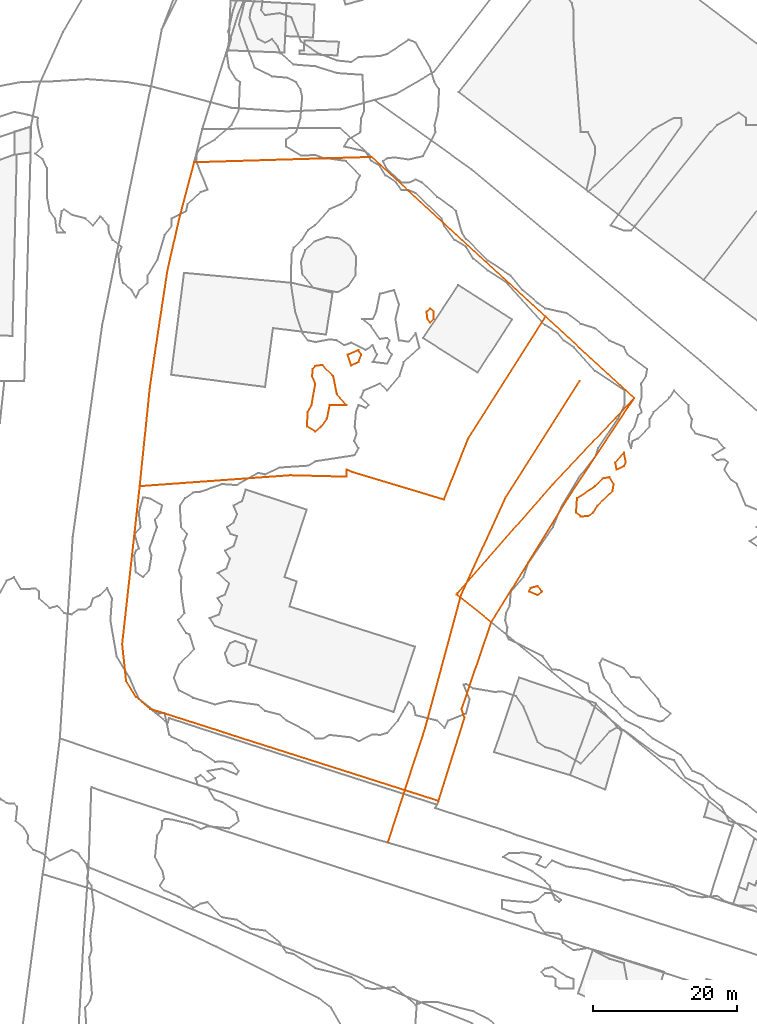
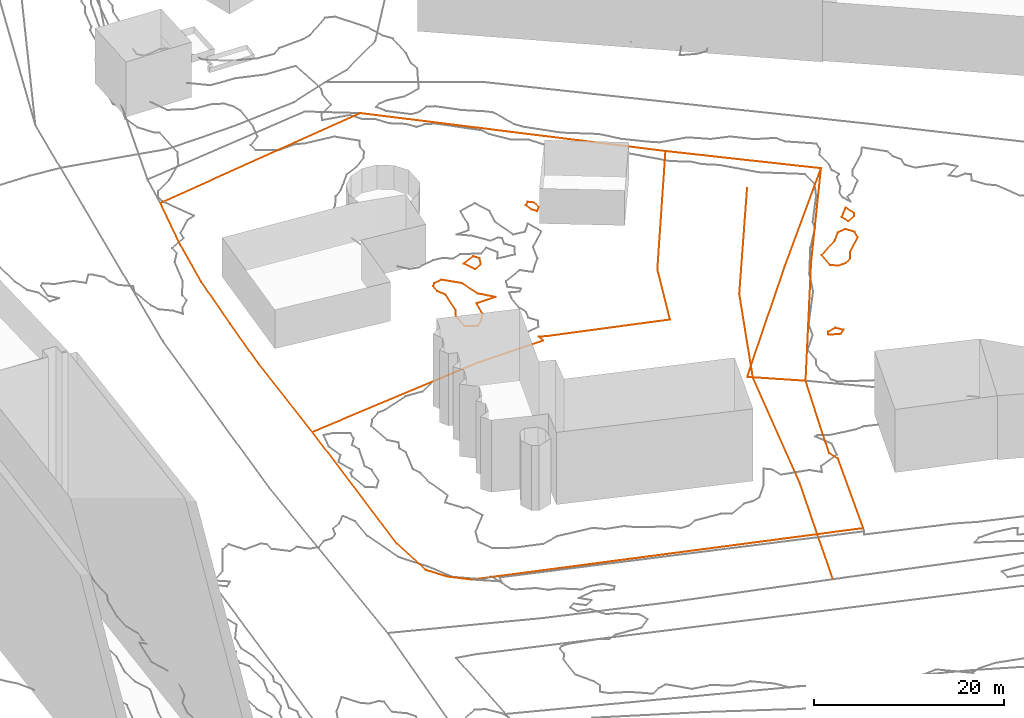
# Not in any storey, part 211 of 419: 10 proxies.
"""IFC2X3 model written with IfcOpenShell, lengths in metres."""

from ifc_helpers import new_model, entity, si_unit, frame, origin_with_axes, place, context, subcontext, project, element, save


model = new_model("IFC2X3")

# Units and contexts
model_context = context("Model", 3, precision=1e-05, world=origin_with_axes())
body_context = subcontext(model_context, "Body", "Model", "MODEL_VIEW")
ifc_project = project(units=[si_unit("AREAUNIT", "SQUARE_METRE"), si_unit("LENGTHUNIT", "METRE")], contexts=[model_context])

# Proxies
proxy_1_placement = place(None, frame((739.1920204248, 194.8976909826, 76.7), z_axis=(0.0, 0.0, 1.0), x_axis=(1.0, 0.0, 0.0)))
element("IfcBuildingElementProxy", 1, at=proxy_1_placement, Name="Route 255", ObjectType="NOTDEFINED", context=body_context, shape_type="GeometricCurveSet", body=[
    entity("IfcGeometricCurveSet", [entity("IfcPolyline", [entity("IfcCartesianPoint", [0.0, 0.0, 0.0]), entity("IfcCartesianPoint", [5.2000000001, 16.0, 0.9]), entity("IfcCartesianPoint", [10.2000000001, 34.5, 1.4]), entity("IfcCartesianPoint", [16.4, 48.0999999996, 1.8]), entity("IfcCartesianPoint", [26.7000000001, 64.2999999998, 1.9])])]),
])
proxy_2_placement = place(None, frame((748.7820204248, 229.4776909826, 78.3629999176), z_axis=(0.0, 0.0, 1.0), x_axis=(1.0, 0.0, 0.0)))
element("IfcBuildingElementProxy", 2, at=proxy_2_placement, Name="Cadastre 110", ObjectType="NOTDEFINED", context=body_context, shape_type="GeometricCurveSet", body=[
    entity("IfcGeometricCurveSet", [entity("IfcPolyline", [entity("IfcCartesianPoint", [24.74, 27.3799999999, 1.5510527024]), entity("IfcCartesianPoint", [23.88, 26.0999999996, 1.4274074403]), entity("IfcCartesianPoint", [15.46, 13.3799999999, 1.2398499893]), entity("IfcCartesianPoint", [4.83, -3.8600000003, 0.1554130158]), entity("IfcCartesianPoint", [0.0, 0.0, 0.0]), entity("IfcCartesianPoint", [0.13, 0.2199999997, 0.0003997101]), entity("IfcCartesianPoint", [13.36, 15.3300000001, 0.2176256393]), entity("IfcCartesianPoint", [24.74, 27.3799999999, 1.5510527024])])]),
])
proxy_3_placement = place(None, frame((704.6220204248, 244.5776909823, 77.604552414), z_axis=(0.0, 0.0, 1.0), x_axis=(1.0, 0.0, 0.0)))
element("IfcBuildingElementProxy", 3, at=proxy_3_placement, Name="Cadastre 114", ObjectType="NOTDEFINED", context=body_context, shape_type="GeometricCurveSet", body=[
    entity("IfcGeometricCurveSet", [entity("IfcPolyline", [entity("IfcCartesianPoint", [32.29, 45.8800000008, 1.8350646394]), entity("IfcCartesianPoint", [56.54, 23.6100000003, 1.9709564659]), entity("IfcCartesianPoint", [45.75, 6.6300000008, 0.850103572]), entity("IfcCartesianPoint", [42.38, -1.8799999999, 0.7475156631]), entity("IfcCartesianPoint", [29.6799999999, 1.9500000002, 0.7455705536]), entity("IfcCartesianPoint", [28.85, 2.3100000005, 0.7417434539]), entity("IfcCartesianPoint", [28.8, 1.3200000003, 0.8591505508]), entity("IfcCartesianPoint", [20.95, 1.5200000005, 0.6377476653]), entity("IfcCartesianPoint", [0.0, 0.0, 0.0]), entity("IfcCartesianPoint", [1.41, 13.7600000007, -0.0802892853]), entity("IfcCartesianPoint", [2.61, 21.8400000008, -0.223824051]), entity("IfcCartesianPoint", [3.87, 30.1200000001, -0.2867519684]), entity("IfcCartesianPoint", [5.54, 37.4400000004, -0.5417218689]), entity("IfcCartesianPoint", [7.59, 45.1400000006, -0.6080491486]), entity("IfcCartesianPoint", [32.29, 45.8800000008, 1.8350646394])])]),
])
proxy_4_placement = place(None, frame((702.1820204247, 222.587690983, 77.4781291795), z_axis=(0.0, 0.0, 1.0), x_axis=(1.0, 0.0, 0.0)))
element("IfcBuildingElementProxy", 4, at=proxy_4_placement, Name="Cadastre 115", ObjectType="NOTDEFINED", context=body_context, shape_type="GeometricCurveSet", body=[
    entity("IfcGeometricCurveSet", [entity("IfcPolyline", [entity("IfcCartesianPoint", [58.9800000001, 45.5999999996, 2.0973797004]), entity("IfcCartesianPoint", [71.3400000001, 34.2699999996, 2.4359234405]), entity("IfcCartesianPoint", [59.9600000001, 22.2199999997, 1.1024963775]), entity("IfcCartesianPoint", [46.7300000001, 7.1099999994, 0.8852704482]), entity("IfcCartesianPoint", [46.6000000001, 6.8899999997, 0.8848707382]), entity("IfcCartesianPoint", [51.4300000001, 3.0299999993, 1.0402837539]), entity("IfcCartesianPoint", [49.28, -3.25, 0.7424400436]), entity("IfcCartesianPoint", [47.3, -9.0899999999, 0.5323606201]), entity("IfcCartesianPoint", [47.7000000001, -10.2600000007, 0.3885682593]), entity("IfcCartesianPoint", [44.0600000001, -21.8799999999, -0.2044449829]), entity("IfcCartesianPoint", [3.87, -9.0500000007, -0.5264139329]), entity("IfcCartesianPoint", [1.92, -7.3700000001, -0.4866284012]), entity("IfcCartesianPoint", [0.5700000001, -5.1800000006, -0.4966960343]), entity("IfcCartesianPoint", [0.54, -5.1000000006, -0.4969942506]), entity("IfcCartesianPoint", [0.0, 0.0, 0.0]), entity("IfcCartesianPoint", [2.4400000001, 21.9899999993, 0.1264232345]), entity("IfcCartesianPoint", [23.39, 23.5099999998, 0.7641708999]), entity("IfcCartesianPoint", [31.2400000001, 23.3099999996, 0.9855737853]), entity("IfcCartesianPoint", [31.29, 24.2999999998, 0.8681666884]), entity("IfcCartesianPoint", [32.12, 23.9399999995, 0.8719937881]), entity("IfcCartesianPoint", [44.8200000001, 20.1099999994, 0.8739388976]), entity("IfcCartesianPoint", [48.1900000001, 28.6200000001, 0.9765268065]), entity("IfcCartesianPoint", [58.9800000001, 45.5999999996, 2.0973797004])])]),
])
proxy_5_placement = place(None, frame((744.5920370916, 268.8976909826, 78.0), z_axis=(0.0, 0.0, 1.0), x_axis=(1.0, 0.0, 0.0)))
element("IfcBuildingElementProxy", 5, at=proxy_5_placement, Name="Contour 78.0 m", ObjectType="NOTDEFINED", context=body_context, shape_type="GeometricCurveSet", body=[
    entity("IfcGeometricCurveSet", [entity("IfcPolyline", [entity("IfcCartesianPoint", [0.4999833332, -1.4999833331, 0.0]), entity("IfcCartesianPoint", [0.9999666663, -1.0, 0.0]), entity("IfcCartesianPoint", [0.9999666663, 0.0, 0.0]), entity("IfcCartesianPoint", [0.4999833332, 0.4285558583, 0.0]), entity("IfcCartesianPoint", [0.0, 0.0, 0.0]), entity("IfcCartesianPoint", [0.1250071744, -1.0, 0.0]), entity("IfcCartesianPoint", [0.4999833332, -1.4999833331, 0.0])])]),
])
proxy_6_placement = place(None, frame((733.5919704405, 262.8976909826, 78.0), z_axis=(0.0, 0.0, 1.0), x_axis=(1.0, 0.0, 0.0)))
element("IfcBuildingElementProxy", 6, at=proxy_6_placement, Name="Contour 78.0 m", ObjectType="NOTDEFINED", context=body_context, shape_type="GeometricCurveSet", body=[
    entity("IfcGeometricCurveSet", [entity("IfcPolyline", [entity("IfcCartesianPoint", [1.5000699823, -1.0, 0.0]), entity("IfcCartesianPoint", [0.5000499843, -1.5000499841, 0.0]), entity("IfcCartesianPoint", [0.0, 0.0, 0.0]), entity("IfcCartesianPoint", [1.5000499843, 0.6667090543, 0.0]), entity("IfcCartesianPoint", [1.9000652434, 0.0, 0.0]), entity("IfcCartesianPoint", [1.5000699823, -1.0, 0.0])])]),
])
proxy_7_placement = place(None, frame((727.9381968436, 252.8976909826, 78.0), z_axis=(0.0, 0.0, 1.0), x_axis=(1.0, 0.0, 0.0)))
element("IfcBuildingElementProxy", 7, at=proxy_7_placement, Name="Contour 78.0 m", ObjectType="NOTDEFINED", context=body_context, shape_type="GeometricCurveSet", body=[
    entity("IfcGeometricCurveSet", [entity("IfcPolyline", [entity("IfcCartesianPoint", [1.9871781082, 0.0, 0.0]), entity("IfcCartesianPoint", [1.1538235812, -0.7142779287, 0.0]), entity("IfcCartesianPoint", [0.0, 0.0, 0.0]), entity("IfcCartesianPoint", [0.0823794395, 2.0, 0.0]), entity("IfcCartesianPoint", [0.6244276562, 3.0, 0.0]), entity("IfcCartesianPoint", [1.1538158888, 6.0, 0.0]), entity("IfcCartesianPoint", [0.6992875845, 7.0, 0.0]), entity("IfcCartesianPoint", [0.8038197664, 8.0, 0.0]), entity("IfcCartesianPoint", [1.1538235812, 8.4375089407, 0.0]), entity("IfcCartesianPoint", [2.1538235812, 8.5833174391, 0.0]), entity("IfcCartesianPoint", [3.6538360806, 7.0, 0.0]), entity("IfcCartesianPoint", [4.1538235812, 4.5000499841, 0.0]), entity("IfcCartesianPoint", [5.487241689, 3.0, 0.0]), entity("IfcCartesianPoint", [3.1538235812, 2.9999000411, 0.0]), entity("IfcCartesianPoint", [2.7538083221, 1.0, 0.0]), entity("IfcCartesianPoint", [1.9871781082, 0.0, 0.0])])]),
])
proxy_8_placement = place(None, frame((770.8814919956, 247.8976909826, 80.0), z_axis=(0.0, 0.0, 1.0), x_axis=(1.0, 0.0, 0.0)))
element("IfcBuildingElementProxy", 8, at=proxy_8_placement, Name="Contour 80.0 m", ObjectType="NOTDEFINED", context=body_context, shape_type="GeometricCurveSet", body=[
    entity("IfcGeometricCurveSet", [entity("IfcPolyline", [entity("IfcCartesianPoint", [0.2105617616, -1.0, 0.0]), entity("IfcCartesianPoint", [0.0, 0.0, 0.0]), entity("IfcCartesianPoint", [1.2105284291, 1.3334181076, 0.0]), entity("IfcCartesianPoint", [1.4832430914, 0.0, 0.0]), entity("IfcCartesianPoint", [1.2105284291, -0.5000166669, 0.0]), entity("IfcCartesianPoint", [0.2105617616, -1.0, 0.0])])]),
])
proxy_9_placement = place(None, frame((765.4253537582, 240.8976909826, 80.0), z_axis=(0.0, 0.0, 1.0), x_axis=(1.0, 0.0, 0.0)))
element("IfcBuildingElementProxy", 9, at=proxy_9_placement, Name="Contour 80.0 m", ObjectType="NOTDEFINED", context=body_context, shape_type="GeometricCurveSet", body=[
    entity("IfcGeometricCurveSet", [entity("IfcPolyline", [entity("IfcCartesianPoint", [2.3939520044, 0.0, 0.0]), entity("IfcCartesianPoint", [1.6666666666, -0.5000062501, 0.0]), entity("IfcCartesianPoint", [0.6666666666, -0.5333401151, 0.0]), entity("IfcCartesianPoint", [0.0, 0.0, 0.0]), entity("IfcCartesianPoint", [0.1347531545, 2.0, 0.0]), entity("IfcCartesianPoint", [2.6666666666, 3.6666497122, 0.0]), entity("IfcCartesianPoint", [3.6666666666, 4.7646979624, 0.0]), entity("IfcCartesianPoint", [4.6666666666, 4.9333197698, 0.0]), entity("IfcCartesianPoint", [5.250002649, 4.0, 0.0]), entity("IfcCartesianPoint", [5.0769250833, 3.0, 0.0]), entity("IfcCartesianPoint", [2.9824519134, 1.0, 0.0]), entity("IfcCartesianPoint", [2.3939520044, 0.0, 0.0])])]),
])
proxy_10_placement = place(None, frame((758.8539182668, 229.8976909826, 80.0), z_axis=(0.0, 0.0, 1.0), x_axis=(1.0, 0.0, 0.0)))
element("IfcBuildingElementProxy", 10, at=proxy_10_placement, Name="Contour 80.0 m", ObjectType="NOTDEFINED", context=body_context, shape_type="GeometricCurveSet", body=[
    entity("IfcGeometricCurveSet", [entity("IfcPolyline", [entity("IfcCartesianPoint", [1.821419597, 0.0, 0.0]), entity("IfcCartesianPoint", [1.2381021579, -0.5000071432, 0.0]), entity("IfcCartesianPoint", [0.0, 0.0, 0.0]), entity("IfcCartesianPoint", [0.2381021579, 0.5000099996, 0.0]), entity("IfcCartesianPoint", [1.2381021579, 0.7778060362, 0.0]), entity("IfcCartesianPoint", [1.821419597, 0.0, 0.0])])]),
])

save(model, "model.ifc")
